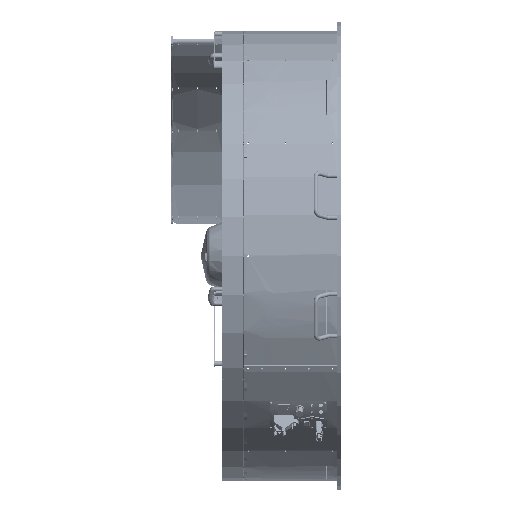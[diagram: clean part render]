
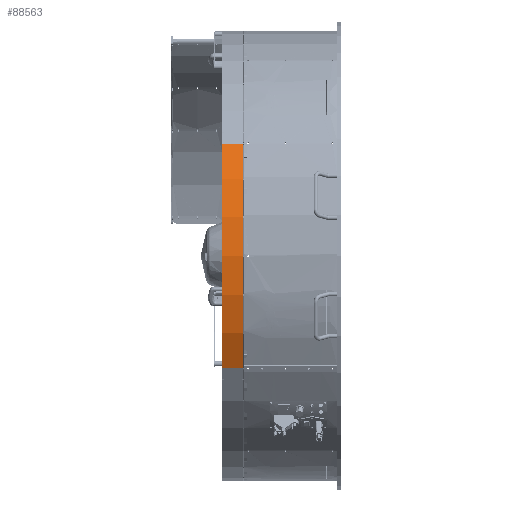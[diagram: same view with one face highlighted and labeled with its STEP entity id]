
A CAD part, left-side view. The second image highlights one B-rep face of the part: STEP entity #88563.
In plain terms, the highlighted cylindrical face has radius 620 mm (diameter 1240 mm), a partial arc.
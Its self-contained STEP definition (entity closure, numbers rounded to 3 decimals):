
#40914 = CARTESIAN_POINT ( 'NONE',  ( 310., -536.936, 60. ) ) ;
#46759 = CARTESIAN_POINT ( 'NONE',  ( 0., 0., 1. ) ) ;
#49601 = DIRECTION ( 'NONE',  ( 0., 0., -1. ) ) ;
#53461 = CYLINDRICAL_SURFACE ( 'NONE', #239041, 620. ) ;
#69191 = VERTEX_POINT ( 'NONE', #375091 ) ;
#88563 = ADVANCED_FACE ( 'NONE', ( #324263 ), #53461, .T. ) ;
#104497 = AXIS2_PLACEMENT_3D ( 'NONE', #281332, #49601, #481645 ) ;
#119171 = CARTESIAN_POINT ( 'NONE',  ( 620., 0., 60. ) ) ;
#120569 = AXIS2_PLACEMENT_3D ( 'NONE', #46759, #481382, #252313 ) ;
#144496 = VECTOR ( 'NONE', #314413, 1000. ) ;
#168126 = CARTESIAN_POINT ( 'NONE',  ( 620., 0., 59. ) ) ;
#182881 = VERTEX_POINT ( 'NONE', #168126 ) ;
#196825 = ORIENTED_EDGE ( 'NONE', *, *, #463874, .T. ) ;
#199066 = VERTEX_POINT ( 'NONE', #315237 ) ;
#209340 = EDGE_CURVE ( 'NONE', #199066, #262289, #502860, .T. ) ;
#212400 = EDGE_LOOP ( 'NONE', ( #342924, #196825, #493284, #515018 ) ) ;
#222434 = DIRECTION ( 'NONE',  ( -1., 0., 0. ) ) ;
#239041 = AXIS2_PLACEMENT_3D ( 'NONE', #373509, #251298, #222434 ) ;
#251298 = DIRECTION ( 'NONE',  ( 0., 0., -1. ) ) ;
#252313 = DIRECTION ( 'NONE',  ( 1., 0., 0. ) ) ;
#262289 = VERTEX_POINT ( 'NONE', #414266 ) ;
#281332 = CARTESIAN_POINT ( 'NONE',  ( 0., 0., 59. ) ) ;
#314112 = EDGE_CURVE ( 'NONE', #182881, #262289, #475663, .T. ) ;
#314413 = DIRECTION ( 'NONE',  ( 0., 0., -1. ) ) ;
#315237 = CARTESIAN_POINT ( 'NONE',  ( 310., -536.936, 1. ) ) ;
#324263 = FACE_OUTER_BOUND ( 'NONE', #212400, .T. ) ;
#342924 = ORIENTED_EDGE ( 'NONE', *, *, #314112, .F. ) ;
#345036 = VECTOR ( 'NONE', #399979, 1000. ) ;
#360987 = LINE ( 'NONE', #40914, #345036 ) ;
#373509 = CARTESIAN_POINT ( 'NONE',  ( 0., 0., 60. ) ) ;
#375091 = CARTESIAN_POINT ( 'NONE',  ( 310., -536.936, 59. ) ) ;
#399979 = DIRECTION ( 'NONE',  ( 0., 0., -1. ) ) ;
#410529 = EDGE_CURVE ( 'NONE', #69191, #199066, #360987, .T. ) ;
#414266 = CARTESIAN_POINT ( 'NONE',  ( 620., 0., 1. ) ) ;
#445111 = CIRCLE ( 'NONE', #104497, 620. ) ;
#463874 = EDGE_CURVE ( 'NONE', #182881, #69191, #445111, .T. ) ;
#475663 = LINE ( 'NONE', #119171, #144496 ) ;
#481382 = DIRECTION ( 'NONE',  ( 0., 0., 1. ) ) ;
#481645 = DIRECTION ( 'NONE',  ( 1., 0., 0. ) ) ;
#493284 = ORIENTED_EDGE ( 'NONE', *, *, #410529, .T. ) ;
#502860 = CIRCLE ( 'NONE', #120569, 620. ) ;
#515018 = ORIENTED_EDGE ( 'NONE', *, *, #209340, .T. ) ;
